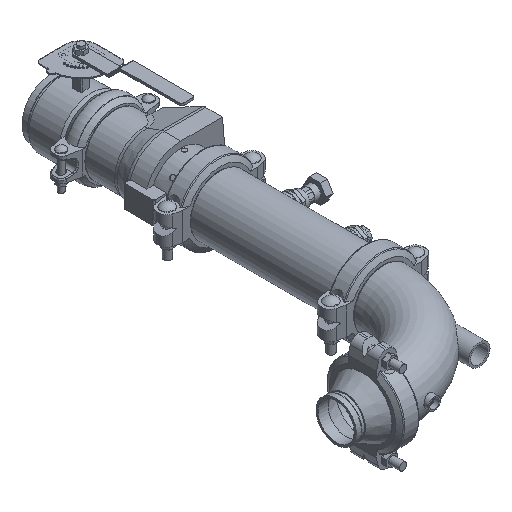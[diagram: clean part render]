
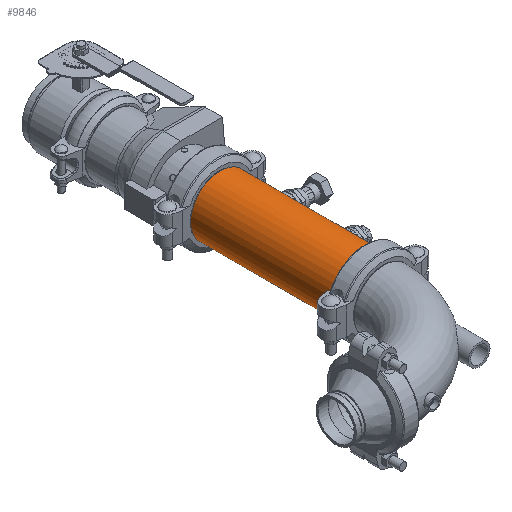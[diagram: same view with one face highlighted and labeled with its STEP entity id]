
A CAD part, isometric view. The second image highlights one B-rep face of the part: STEP entity #9846.
In plain terms, the highlighted cylindrical face has radius 84.138 mm (diameter 168.275 mm), a full revolution.
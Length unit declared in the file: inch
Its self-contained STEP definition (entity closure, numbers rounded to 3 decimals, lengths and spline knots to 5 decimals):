
#282=LINE('',#14877,#1004);
#1004=VECTOR('',#11819,3.3125);
#1726=CYLINDRICAL_SURFACE('',#10628,3.3125);
#2045=FACE_OUTER_BOUND('',#2603,.T.);
#2603=EDGE_LOOP('',(#6180,#6181,#6182,#6183,#6184,#6185));
#3274=CIRCLE('',#10626,3.3125);
#3275=CIRCLE('',#10627,3.3125);
#3276=CIRCLE('',#10629,3.3125);
#3277=CIRCLE('',#10630,3.3125);
#3820=VERTEX_POINT('',#14868);
#3821=VERTEX_POINT('',#14869);
#3822=VERTEX_POINT('',#14873);
#3823=VERTEX_POINT('',#14874);
#4765=EDGE_CURVE('',#3820,#3821,#3274,.T.);
#4766=EDGE_CURVE('',#3821,#3820,#3275,.T.);
#4767=EDGE_CURVE('',#3822,#3823,#3276,.T.);
#4768=EDGE_CURVE('',#3823,#3822,#3277,.T.);
#4769=EDGE_CURVE('',#3823,#3821,#282,.T.);
#6180=ORIENTED_EDGE('',*,*,#4767,.F.);
#6181=ORIENTED_EDGE('',*,*,#4768,.F.);
#6182=ORIENTED_EDGE('',*,*,#4769,.T.);
#6183=ORIENTED_EDGE('',*,*,#4766,.T.);
#6184=ORIENTED_EDGE('',*,*,#4765,.T.);
#6185=ORIENTED_EDGE('',*,*,#4769,.F.);
#9846=ADVANCED_FACE('',(#2045),#1726,.T.);
#10626=AXIS2_PLACEMENT_3D('',#14870,#11809,#11810);
#10627=AXIS2_PLACEMENT_3D('',#14871,#11811,#11812);
#10628=AXIS2_PLACEMENT_3D('',#14872,#11813,#11814);
#10629=AXIS2_PLACEMENT_3D('',#14875,#11815,#11816);
#10630=AXIS2_PLACEMENT_3D('',#14876,#11817,#11818);
#11809=DIRECTION('center_axis',(1.,0.,0.));
#11810=DIRECTION('ref_axis',(0.,0.,-1.));
#11811=DIRECTION('center_axis',(1.,0.,0.));
#11812=DIRECTION('ref_axis',(0.,0.,-1.));
#11813=DIRECTION('center_axis',(1.,0.,0.));
#11814=DIRECTION('ref_axis',(0.,1.,0.));
#11815=DIRECTION('center_axis',(1.,0.,0.));
#11816=DIRECTION('ref_axis',(0.,0.,-1.));
#11817=DIRECTION('center_axis',(1.,0.,0.));
#11818=DIRECTION('ref_axis',(0.,0.,-1.));
#11819=DIRECTION('',(-1.,0.,0.));
#14868=CARTESIAN_POINT('',(-8.04725,3.3125,0.));
#14869=CARTESIAN_POINT('',(-8.04725,-3.3125,0.));
#14870=CARTESIAN_POINT('Origin',(-8.04725,0.,0.));
#14871=CARTESIAN_POINT('Origin',(-8.04725,0.,0.));
#14872=CARTESIAN_POINT('Origin',(0.,0.,0.));
#14873=CARTESIAN_POINT('',(8.04725,3.3125,0.));
#14874=CARTESIAN_POINT('',(8.04725,-3.3125,0.));
#14875=CARTESIAN_POINT('Origin',(8.04725,0.,0.));
#14876=CARTESIAN_POINT('Origin',(8.04725,0.,0.));
#14877=CARTESIAN_POINT('',(0.,-3.3125,0.));
